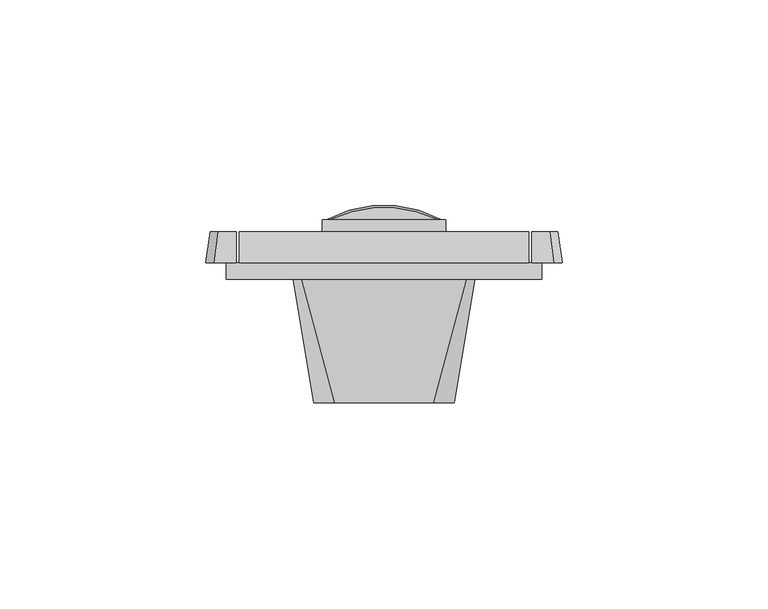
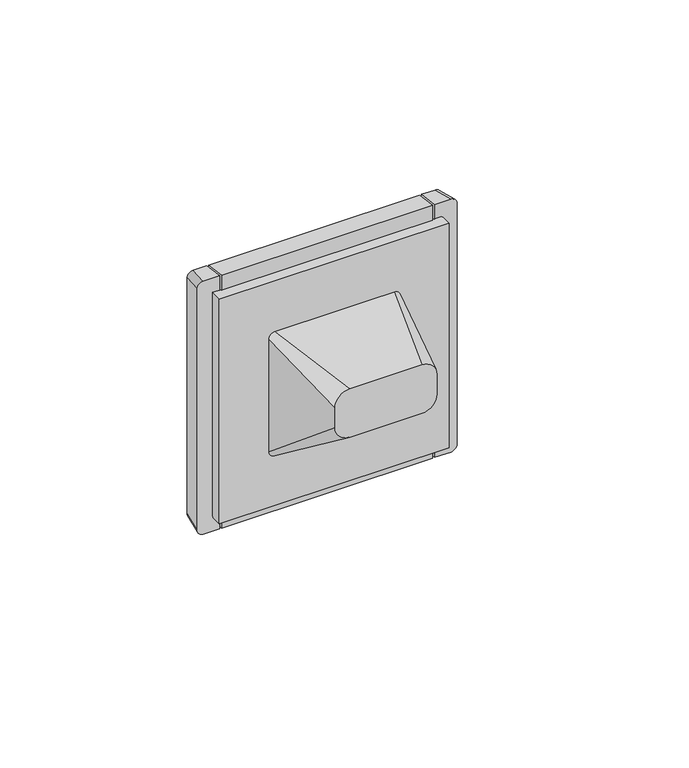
"""IFC4 building model written with IfcOpenShell, lengths in millimetres: proxy geometry, IEK_Forte&Piano_Выключатель : ДД LED_FP256."""

from ifc_helpers import new_model, si_unit, point, frame, frame_2d, origin, place, context, project, spatial, polyline, circle_curve, trimmed, segment, composite_curve, outline, extrude, faceted_brep, source, transform, mapped, element, save
from ifc_brep_helpers import plane_surface, cylinder_surface, extruded_surface, spline_surface, advanced_brep


def electrical_fixtures_8cefece8(model_context):
    return source(origin(), model_context, "Body", "SolidModel", [
        faceted_brep([(22.7, 4.0, 22.7), (22.7, 11.6, 22.7), (-22.7, 11.5, 22.7), (-22.7, 4.0, 22.7), (22.7, 4.0, -22.7), (22.7, 11.6, -22.7), (-22.7, 4.0, -22.7), (-22.7, 11.6, -22.7), (-11.7452249, 11.5, -9.0), (11.7452249, 11.5, -9.0), (11.7331324, 11.5, 9.0), (-11.7452249, 11.5, 9.0), (6.4162542, 6.1831218, -9.0), (-6.4162542, 6.1831218, -9.0), (6.4162542, 6.1831218, 9.0), (-6.4162542, 6.1831218, 9.0)], [[[0, 1, 2, 3]], [[1, 0, 4, 5]], [[5, 4, 6, 7]], [[7, 6, 3, 2]], [[0, 3, 6, 4]], [[2, 1, 5, 7], [8, 9, 10, 11]], [[12, 9, 8, 13]], [[14, 15, 11, 10]], [[9, 12, 14, 10]], [[12, 13, 15, 14]], [[13, 8, 11, 15]]]),
        faceted_brep([(-23.5, 4.0, 23.5), (-23.5, 11.6, 23.5), (23.5, 11.5, 23.5), (23.5, 4.0, 23.5), (23.5, 11.5, -23.5), (23.5, 4.0, -23.5), (-23.5, 11.5, -23.5), (-23.5, 4.0, -23.5), (35.2, 11.5, 43.5), (35.2, 4.0, 44.5), (35.2, 4.0, -44.5), (35.2, 11.5, -43.5), (-35.2, 11.5, 43.5), (-35.2, 11.5, -43.5), (-35.2, 4.0, -44.5), (-35.2, 4.0, 44.5)], [[[0, 1, 2, 3]], [[3, 2, 4, 5]], [[5, 4, 6, 7]], [[1, 0, 7, 6]], [[8, 9, 10, 11]], [[12, 13, 14, 15]], [[9, 8, 12, 15]], [[10, 9, 15, 14], [0, 3, 5, 7]], [[11, 10, 14, 13]], [[8, 11, 13, 12], [2, 1, 6, 4]]]),
        extrude(outline(composite_curve([segment(polyline([(12.7507341, 14.5362775), (-12.7507341, 14.5362775)]), True, "CONTINUOUS"), segment(trimmed(circle_curve(frame_2d((0.0, -10.8318014)), 28.3922638), [point((-12.7507341, 14.5362775))], [point((12.7507341, 14.5362775))], False, "CARTESIAN"), True, "CONTINUOUS")], self_intersect=False)), frame((0.0, 0.0, -11.0), z_axis=(0.0, 0.0, 1.0), x_axis=(1.0, 0.0, 0.0)), (0.0, 0.0, 1.0), 1.0),
        extrude(outline(composite_curve([segment(polyline([(12.7507341, 14.5362775), (-12.7507341, 14.5362775)]), True, "CONTINUOUS"), segment(trimmed(circle_curve(frame_2d((0.0, -10.8318014)), 28.3922638), [point((-12.7507341, 14.5362775))], [point((12.7507341, 14.5362775))], False, "CARTESIAN"), True, "CONTINUOUS")], self_intersect=False)), frame((0.0, 0.0, 10.0), z_axis=(0.0, 0.0, 1.0), x_axis=(1.0, 0.0, 0.0)), (0.0, 0.0, 1.0), 1.0),
        extrude(outline(composite_curve([segment(polyline([(-11.7452249, 14.5362775), (-13.625, 14.5362775)]), True, "CONTINUOUS"), segment(trimmed(circle_curve(frame_2d((0.0, -10.8318014)), 28.7954866), [point((-13.625, 14.5362775))], [point((13.625, 14.5362775))], False, "CARTESIAN"), True, "CONTINUOUS"), segment(polyline([(13.625, 14.5362775), (11.7452249, 14.5362775)]), True, "CONTINUOUS"), segment(trimmed(circle_curve(frame_2d((0.0, -10.3684907)), 27.5353915), [point((11.7452249, 14.5362775))], [point((-11.7452249, 14.5362775))], True, "CARTESIAN"), True, "CONTINUOUS")], self_intersect=False)), frame((0.0, 0.0, -10.0), z_axis=(0.0, 0.0, 1.0), x_axis=(1.0, 0.0, 0.0)), (0.0, 0.0, 1.0), 20.0),
        extrude(outline(composite_curve([segment(polyline([(12.5789628, -16.6064615), (11.5, -16.6064615), (11.5, -11.0), (14.5, -11.0), (14.5, -14.6854242)]), True, "CONTINUOUS"), segment(trimmed(circle_curve(frame_2d((12.5789628, -14.6854242)), 1.9210372), [point((14.5, -14.6854242))], [point((12.5789628, -16.6064615))], False, "CARTESIAN"), True, "CONTINUOUS")], self_intersect=False)), frame((-12.7507341, 0.0, 0.0), z_axis=(1.0, 0.0, 0.0), x_axis=(0.0, 1.0, 0.0)), (0.0, 0.0, 1.0), 25.5014682),
        advanced_brep(
        [(-12.7507341, 14.5, -11.0), (12.7507341, 14.5, -11.0), (12.7507341, 11.5, -11.0), (-12.7507341, 11.5, -11.0), (15.0, 14.5, 13.291876), (-15.0, 14.5, 13.291876), (-15.0, 11.5, 13.291876), (15.0, 11.5, 13.291876), (-11.7452249, 14.5, -9.0), (-11.7452249, 14.5, 9.0), (-11.7452249, 11.5, 9.0), (-11.7452249, 11.5, -9.0), (11.7452249, 14.5, -9.0), (11.7452249, 11.5, -9.0), (11.7452249, 14.5, 9.0), (11.7452249, 11.5, 9.0), (15.0, 11.5, -16.6064615), (15.0, 12.5789628, -16.6064615), (15.0, 14.5, -14.6854242), (-15.0, 14.5, -14.6854242), (-15.0, 12.5789628, -16.6064615), (-15.0, 11.5, -16.6064615), (-12.7507341, 11.5, -16.6064615), (12.7507341, 11.5, -16.6064615), (12.7507341, 12.5789628, -16.6064615), (-12.7507341, 12.5789628, -16.6064615), (12.7507341, 14.5, -14.6854242), (-12.7507341, 14.5, -14.6854242)],
        [
            (0, 1),
            (1, 2),
            (2, 3),
            (3, 0),
            (4, 5),
            (5, 6),
            (6, 7),
            (7, 4),
            (8, 9),
            (9, 10),
            (10, 11),
            (11, 8),
            (12, 8),
            (11, 13),
            (13, 12),
            (14, 12),
            (13, 15),
            (15, 14),
            (9, 14),
            (15, 10),
            (16, 17),
            (17, 18, circle_curve(frame((15.0, 12.5789628, -14.6854242), z_axis=(1.0, 0.0, 0.0), x_axis=(0.0, 1.0, 0.0)), 1.9210372)),
            (18, 4),
            (7, 16),
            (19, 20, circle_curve(frame((-15.0, 12.5789628, -14.6854242), z_axis=(-1.0, 0.0, 0.0), x_axis=(0.0, 1.0, 0.0)), 1.9210372)),
            (20, 21),
            (21, 6),
            (5, 19),
            (21, 22),
            (22, 3),
            (2, 23),
            (23, 16),
            (23, 24),
            (24, 17),
            (20, 25),
            (25, 22),
            (24, 26, circle_curve(frame((12.7507341, 12.5789628, -14.6854242), z_axis=(1.0, 0.0, 0.0), x_axis=(0.0, 1.0, 0.0)), 1.9210372)),
            (26, 18),
            (19, 27),
            (27, 25, circle_curve(frame((-12.7507341, 12.5789628, -14.6854242), z_axis=(-1.0, 0.0, 0.0), x_axis=(0.0, 1.0, 0.0)), 1.9210372)),
            (26, 1),
            (0, 27),
        ],
        [
            plane_surface(frame((15.0, 14.5, -11.0), z_axis=(0.0, 0.0, -1.0), x_axis=(0.0, -1.0, 0.0))),
            plane_surface(frame((-15.0, 14.5, 13.291876), z_axis=(0.0, 0.0, 1.0), x_axis=(0.0, -1.0, 0.0))),
            plane_surface(frame((-11.7452249, 14.5, 9.0), z_axis=(1.0, 0.0, 0.0), x_axis=(0.0, -1.0, 0.0))),
            plane_surface(frame((-11.7452249, 14.5, -9.0), z_axis=(0.0, 0.0, 1.0), x_axis=(0.0, -1.0, 0.0))),
            plane_surface(frame((11.7452249, 14.5, -9.0), z_axis=(-1.0, 0.0, 0.0), x_axis=(0.0, -1.0, 0.0))),
            plane_surface(frame((11.7452249, 14.5, 9.0), z_axis=(0.0, 0.0, -1.0), x_axis=(0.0, -1.0, 0.0))),
            plane_surface(frame((15.0, 11.5, -11.0), z_axis=(1.0, 0.0, 0.0), x_axis=(0.0, -1.0, 0.0))),
            plane_surface(frame((-15.0, 11.5, -11.0), z_axis=(-1.0, 0.0, 0.0), x_axis=(0.0, 1.0, 0.0))),
            plane_surface(frame((15.0, 11.5, -11.0), z_axis=(0.0, -1.0, 0.0), x_axis=(-1.0, 0.0, 0.0))),
            plane_surface(frame((15.0, 11.5, -16.6064615), z_axis=(0.0, 0.0, -1.0), x_axis=(-1.0, 0.0, 0.0))),
            cylinder_surface(frame((-15.0, 12.5789628, -14.6854242), z_axis=(1.0, 0.0, 0.0), x_axis=(0.0, 1.0, 0.0)), 1.9210372),
            plane_surface(frame((15.0, 14.5, -14.6854242), z_axis=(0.0, 1.0, 0.0), x_axis=(-1.0, 0.0, 0.0))),
            plane_surface(frame((12.7507341, 11.5, -11.0), z_axis=(-1.0, 0.0, 0.0), x_axis=(0.0, -1.0, 0.0))),
            plane_surface(frame((-12.7507341, 11.5, -11.0), z_axis=(1.0, 0.0, 0.0), x_axis=(0.0, 1.0, 0.0))),
        ],
        [
            (0, [[1, 2, 3, 4]]),
            (1, [[5, 6, 7, 8]]),
            (2, [[9, 10, 11, 12]]),
            (3, [[13, -12, 14, 15]]),
            (4, [[16, -15, 17, 18]]),
            (5, [[19, -18, 20, -10]]),
            (6, [[21, 22, 23, -8, 24]]),
            (7, [[25, 26, 27, -6, 28]]),
            (8, [[-24, -7, -27, 29, 30, -3, 31, 32], [-20, -17, -14, -11]]),
            (9, [[-21, -32, 33, 34]]),
            (9, [[-26, 35, 36, -29]]),
            (10, [[-22, -34, 37, 38]]),
            (10, [[-25, 39, 40, -35]]),
            (11, [[-23, -38, 41, -1, 42, -39, -28, -5], [-9, -13, -16, -19]]),
            (12, [[-31, -2, -41, -37, -33]]),
            (13, [[-30, -36, -40, -42, -4]]),
        ],
    ),
        advanced_brep(
        [(35.8576533, 11.5, 43.5), (35.8576533, 11.5, -43.5), (35.8576533, 4.0, -44.5), (35.8576533, 4.0, -39.5), (35.8576533, 4.0, 39.5), (35.8576533, 4.0, 44.5), (-35.8576533, 11.5, -43.5), (-35.8576533, 11.5, 43.5), (-35.8576533, 4.0, 44.5), (-35.8576533, 4.0, 39.5), (-35.8576533, 4.0, -39.5), (-35.8576533, 4.0, -44.5), (40.25, 11.5, 43.5), (42.25, 11.5, 41.5), (42.25, 11.5, -41.5), (40.25, 11.5, -43.5), (-40.25, 11.5, -43.5), (-42.25, 11.5, -41.5), (-42.25, 11.5, 41.5), (-40.25, 11.5, 43.5), (-41.25, 4.0, 44.5), (-43.25, 4.0, 42.5), (-43.25, 4.0, -42.5), (-41.25, 4.0, -44.5), (-38.25, 4.0, -39.5), (-38.25, 4.0, 39.5), (41.25, 4.0, -44.5), (43.25, 4.0, -42.5), (43.25, 4.0, 42.5), (41.25, 4.0, 44.5), (38.25, 4.0, 39.5), (38.25, 4.0, -39.5), (-38.25, 0.0, 39.5), (-38.25, 0.0, -39.5), (38.25, 0.0, -39.5), (38.25, 0.0, 39.5)],
        [
            (0, 1),
            (1, 2),
            (2, 3),
            (3, 4),
            (4, 5),
            (5, 0),
            (6, 7),
            (7, 8),
            (8, 9),
            (9, 10),
            (10, 11),
            (11, 6),
            (12, 13, circle_curve(frame((40.25, 11.5, 41.5), z_axis=(0.0, 1.0, 0.0), x_axis=(-1.0, 0.0, 0.0)), 2.0)),
            (13, 14),
            (14, 15, circle_curve(frame((40.25, 11.5, -41.5), z_axis=(0.0, 1.0, 0.0), x_axis=(-1.0, 0.0, 0.0)), 2.0)),
            (15, 1),
            (0, 12),
            (16, 17, circle_curve(frame((-40.25, 11.5, -41.5), z_axis=(0.0, 1.0, 0.0), x_axis=(-1.0, 0.0, 0.0)), 2.0)),
            (17, 18),
            (18, 19, circle_curve(frame((-40.25, 11.5, 41.5), z_axis=(0.0, 1.0, 0.0), x_axis=(-1.0, 0.0, 0.0)), 2.0)),
            (19, 7),
            (6, 16),
            (20, 21, circle_curve(frame((-41.25, 4.0, 42.5), z_axis=(0.0, -1.0, 0.0), x_axis=(-1.0, 0.0, 0.0)), 2.0)),
            (21, 22),
            (22, 23, circle_curve(frame((-41.25, 4.0, -42.5), z_axis=(0.0, -1.0, 0.0), x_axis=(-1.0, 0.0, 0.0)), 2.0)),
            (23, 11),
            (10, 24),
            (24, 25),
            (25, 9),
            (8, 20),
            (26, 27, circle_curve(frame((41.25, 4.0, -42.5), z_axis=(0.0, -1.0, 0.0), x_axis=(-1.0, 0.0, 0.0)), 2.0)),
            (27, 28),
            (28, 29, circle_curve(frame((41.25, 4.0, 42.5), z_axis=(0.0, -1.0, 0.0), x_axis=(-1.0, 0.0, 0.0)), 2.0)),
            (29, 5),
            (4, 30),
            (30, 31),
            (31, 3),
            (2, 26),
            (29, 12),
            (19, 20),
            (28, 13),
            (27, 14),
            (26, 15),
            (23, 16),
            (22, 17),
            (21, 18),
            (3, 10),
            (9, 4),
            (32, 33),
            (33, 34),
            (34, 35),
            (35, 32),
            (32, 25),
            (24, 33),
            (31, 34),
            (30, 35),
        ],
        [
            plane_surface(frame((35.8576533, 11.5, 44.5), z_axis=(-1.0, 0.0, 0.0), x_axis=(0.0, -1.0, 0.0))),
            plane_surface(frame((-35.8576533, 11.5, -44.5), z_axis=(1.0, 0.0, 0.0), x_axis=(0.0, -1.0, 0.0))),
            plane_surface(frame((0.0, 11.5, 0.0), z_axis=(0.0, 1.0, 0.0), x_axis=(1.0, 0.0, 0.0))),
            plane_surface(frame((0.0, 4.0, 0.0), z_axis=(0.0, -1.0, 0.0), x_axis=(1.0, 0.0, 0.0))),
            plane_surface(frame((0.0, 4.0, 44.5), z_axis=(0.0, 0.13216372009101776, 0.9912279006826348), x_axis=(1.0, 0.0, 0.0))),
            extruded_surface(trimmed(circle_curve(frame((41.25, 4.0, 42.5), z_axis=(0.0, 1.0, 0.0), x_axis=(-1.0, 0.0, 0.0)), 2.0), [point((41.25, 4.0, 44.5))], [point((43.25, 4.0, 42.5))], True, "CARTESIAN"), (-1.0, 7.5, -1.0), 7.632168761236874),
            plane_surface(frame((43.25, 4.0, 0.0), z_axis=(0.9912279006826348, 0.13216372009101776, 0.0), x_axis=(0.0, 0.0, -1.0))),
            extruded_surface(trimmed(circle_curve(frame((41.25, 4.0, -42.5), z_axis=(0.0, 1.0, 0.0), x_axis=(-1.0, 0.0, 0.0)), 2.0), [point((43.25, 4.0, -42.5))], [point((41.25, 4.0, -44.5))], True, "CARTESIAN"), (-1.0, 7.5, 1.0), 7.632168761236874),
            plane_surface(frame((0.0, 4.0, -44.5), z_axis=(0.0, 0.13216372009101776, -0.9912279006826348), x_axis=(-1.0, 0.0, 0.0))),
            extruded_surface(trimmed(circle_curve(frame((-41.25, 4.0, -42.5), z_axis=(0.0, 1.0, 0.0), x_axis=(-1.0, 0.0, 0.0)), 2.0), [point((-41.25, 4.0, -44.5))], [point((-43.25, 4.0, -42.5))], True, "CARTESIAN"), (1.0, 7.5, 1.0), 7.632168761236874),
            plane_surface(frame((-43.25, 4.0, 0.0), z_axis=(-0.9912279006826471, 0.13216372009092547, 0.0), x_axis=(0.0, 0.0, 1.0))),
            extruded_surface(trimmed(circle_curve(frame((-41.25, 4.0, 42.5), z_axis=(0.0, 1.0, 0.0), x_axis=(-1.0, 0.0, 0.0)), 2.0), [point((-43.25, 4.0, 42.5))], [point((-41.25, 4.0, 44.5))], True, "CARTESIAN"), (1.0, 7.5, -1.0), 7.632168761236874),
            plane_surface(frame((-38.25, 4.0, 39.5), z_axis=(0.0, 1.0, 0.0), x_axis=(0.0, 0.0, 1.0))),
            plane_surface(frame((-38.25, 0.0, 39.5), z_axis=(0.0, -1.0, 0.0), x_axis=(0.0, 0.0, -1.0))),
            plane_surface(frame((-38.25, 0.0, 39.5), z_axis=(-1.0, 0.0, 0.0), x_axis=(0.0, 1.0, 0.0))),
            plane_surface(frame((-38.25, 0.0, -39.5), z_axis=(0.0, 0.0, -1.0), x_axis=(0.0, 1.0, 0.0))),
            plane_surface(frame((38.25, 0.0, -39.5), z_axis=(1.0, 0.0, 0.0), x_axis=(0.0, 1.0, 0.0))),
            plane_surface(frame((38.25, 0.0, 39.5), z_axis=(0.0, 0.0, 1.0), x_axis=(0.0, 1.0, 0.0))),
        ],
        [
            (0, [[1, 2, 3, 4, 5, 6]]),
            (1, [[7, 8, 9, 10, 11, 12]]),
            (2, [[13, 14, 15, 16, -1, 17]]),
            (2, [[18, 19, 20, 21, -7, 22]]),
            (3, [[23, 24, 25, 26, -11, 27, 28, 29, -9, 30]]),
            (3, [[31, 32, 33, 34, -5, 35, 36, 37, -3, 38]]),
            (4, [[39, -17, -6, -34]]),
            (4, [[40, -30, -8, -21]]),
            (5, [[-13, -39, -33, 41]]),
            (6, [[-14, -41, -32, 42]]),
            (7, [[-15, -42, -31, 43]]),
            (8, [[-43, -38, -2, -16]]),
            (8, [[44, -22, -12, -26]]),
            (9, [[-18, -44, -25, 45]]),
            (10, [[-19, -45, -24, 46]]),
            (11, [[-20, -46, -23, -40]]),
            (12, [[47, -10, 48, -4]]),
            (13, [[49, 50, 51, 52]]),
            (14, [[-49, 53, -28, 54]]),
            (15, [[-50, -54, -27, -47, -37, 55]]),
            (16, [[-51, -55, -36, 56]]),
            (17, [[-52, -56, -35, -48, -29, -53]]),
        ],
    ),
        advanced_brep(
        [(-12.0, -30.0, 17.0), (-17.0, -30.0, 12.0), (-17.0, -30.0, 5.0), (-12.0, -30.0, 0.0), (12.0, -30.0, 0.0), (17.0, -30.0, 5.0), (17.0, -30.0, 12.0), (12.0, -30.0, 17.0), (-20.0, 0.0, 22.0), (20.0, 0.0, 22.0), (22.0, 0.0, 20.0), (22.0, 0.0, -20.0), (20.0, 0.0, -22.0), (-20.0, 0.0, -22.0), (-22.0, 0.0, -20.0), (-22.0, 0.0, 20.0)],
        [
            (0, 1, circle_curve(frame((-12.0, -30.0, 12.0), z_axis=(0.0, -1.0, 0.0), x_axis=(1.0, 0.0, 0.0)), 5.0)),
            (1, 2),
            (2, 3, circle_curve(frame((-12.0, -30.0, 5.0), z_axis=(0.0, -1.0, 0.0), x_axis=(1.0, 0.0, 0.0)), 5.0)),
            (3, 4),
            (4, 5, circle_curve(frame((12.0, -30.0, 5.0), z_axis=(0.0, -1.0, 0.0), x_axis=(1.0, 0.0, 0.0)), 5.0)),
            (5, 6),
            (6, 7, circle_curve(frame((12.0, -30.0, 12.0), z_axis=(0.0, -1.0, 0.0), x_axis=(1.0, 0.0, 0.0)), 5.0)),
            (7, 0),
            (8, 9),
            (9, 10, circle_curve(frame((20.0, 0.0, 20.0), z_axis=(0.0, 1.0, 0.0), x_axis=(1.0, 0.0, 0.0)), 2.0)),
            (10, 11),
            (11, 12, circle_curve(frame((20.0, 0.0, -20.0), z_axis=(0.0, 1.0, 0.0), x_axis=(1.0, 0.0, 0.0)), 2.0)),
            (12, 13),
            (13, 14, circle_curve(frame((-20.0, 0.0, -20.0), z_axis=(0.0, 1.0, 0.0), x_axis=(1.0, 0.0, 0.0)), 2.0)),
            (14, 15),
            (15, 8, circle_curve(frame((-20.0, 0.0, 20.0), z_axis=(0.0, 1.0, 0.0), x_axis=(1.0, 0.0, 0.0)), 2.0)),
            (8, 0),
            (7, 9),
            (6, 10),
            (5, 11),
            (4, 12),
            (3, 13),
            (2, 14),
            (1, 15),
        ],
        [
            plane_surface(frame((0.0, -30.0, 8.5), z_axis=(0.0, -1.0, 0.0), x_axis=(-1.0, 0.0, 0.0))),
            plane_surface(frame((0.0, 0.0, 0.0), z_axis=(0.0, 1.0, 0.0), x_axis=(-1.0, 0.0, 0.0))),
            plane_surface(frame((0.0, 0.0, 22.0), z_axis=(0.0, -0.16439898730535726, 0.9863939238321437), x_axis=(-1.0, 0.0, 0.0))),
            spline_surface(2, 1, [[(22.0, 0.0, 20.0), (17.0, -30.0, 12.0)], [(22.0, 0.0, 22.0), (17.0, -30.0, 17.0)], [(20.0, 0.0, 22.0), (12.0, -30.0, 17.0)]], [3, 3], [2, 2], [0.0, 1.0], [0.0, 1.0], weights=[[1.0, 1.0], [0.7071067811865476, 0.7071067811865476], [1.0, 1.0]]),
            plane_surface(frame((22.0, 0.0, 0.0), z_axis=(0.9863939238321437, -0.1643989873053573, 0.0), x_axis=(0.0, 0.0, 1.0))),
            spline_surface(2, 1, [[(20.0, 0.0, -22.0), (12.0, -30.0, 0.0)], [(22.0, 0.0, -22.0), (17.0, -30.0, 0.0)], [(22.0, 0.0, -20.0), (17.0, -30.0, 5.0)]], [3, 3], [2, 2], [0.0, 1.0], [0.0, 1.0], weights=[[1.0, 1.0], [0.7071067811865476, 0.7071067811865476], [1.0, 1.0]]),
            plane_surface(frame((0.0, 0.0, -22.0), z_axis=(0.0, -0.591363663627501, -0.8064049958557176), x_axis=(1.0, 0.0, 0.0))),
            spline_surface(2, 1, [[(-22.0, 0.0, -20.0), (-17.0, -30.0, 5.0)], [(-22.0, 0.0, -22.0), (-17.0, -30.0, 0.0)], [(-20.0, 0.0, -22.0), (-12.0, -30.0, 0.0)]], [3, 3], [2, 2], [0.0, 1.0], [0.0, 1.0], weights=[[1.0, 1.0], [0.7071067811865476, 0.7071067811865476], [1.0, 1.0]]),
            plane_surface(frame((-22.0, 0.0, 0.0), z_axis=(-0.9863939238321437, -0.1643989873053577, 0.0), x_axis=(0.0, 0.0, -1.0))),
            spline_surface(2, 1, [[(-20.0, 0.0, 22.0), (-12.0, -30.0, 17.0)], [(-22.0, 0.0, 22.0), (-17.0, -30.0, 17.0)], [(-22.0, 0.0, 20.0), (-17.0, -30.0, 12.0)]], [3, 3], [2, 2], [0.0, 1.0], [0.0, 1.0], weights=[[1.0, 1.0], [0.7071067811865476, 0.7071067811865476], [1.0, 1.0]]),
        ],
        [
            (0, [[1, 2, 3, 4, 5, 6, 7, 8]]),
            (1, [[9, 10, 11, 12, 13, 14, 15, 16]]),
            (2, [[-9, 17, -8, 18]]),
            (3, [[-10, -18, -7, 19]]),
            (4, [[-11, -19, -6, 20]]),
            (5, [[-12, -20, -5, 21]]),
            (6, [[-13, -21, -4, 22]]),
            (7, [[-14, -22, -3, 23]]),
            (8, [[-15, -23, -2, 24]]),
            (9, [[-16, -24, -1, -17]]),
        ],
    ),
    ])


if __name__ == "__main__":
    model = new_model("IFC4")
    model_context = context("Model", 3, world=origin())
    ifc_project = project(units=[si_unit("LENGTHUNIT", "METRE", prefix="MILLI")], contexts=[model_context])
    site = spatial("IfcSite", under=ifc_project)
    building = spatial("IfcBuilding", under=site)
    placement = place(None, origin())
    electrical_fixtures_shape = electrical_fixtures_8cefece8(model_context)
    element("IfcBuildingElementProxy", 1, Name="IEK_Forte&Piano_Выключатель : ДД LED_FP256", ObjectType="IEK_Forte&Piano_Выключатель : ДД LED_FP256", at=placement, inside=building, context=model_context, shape_type="MappedRepresentation", body=[
        mapped(electrical_fixtures_shape, transform((0.0, 0.0, 0.0), x_axis=(1.0, 0.0, 0.0), y_axis=(0.0, 1.0, 0.0), z_axis=(0.0, 0.0, 1.0))),
    ])
    save(model, "model.ifc")
